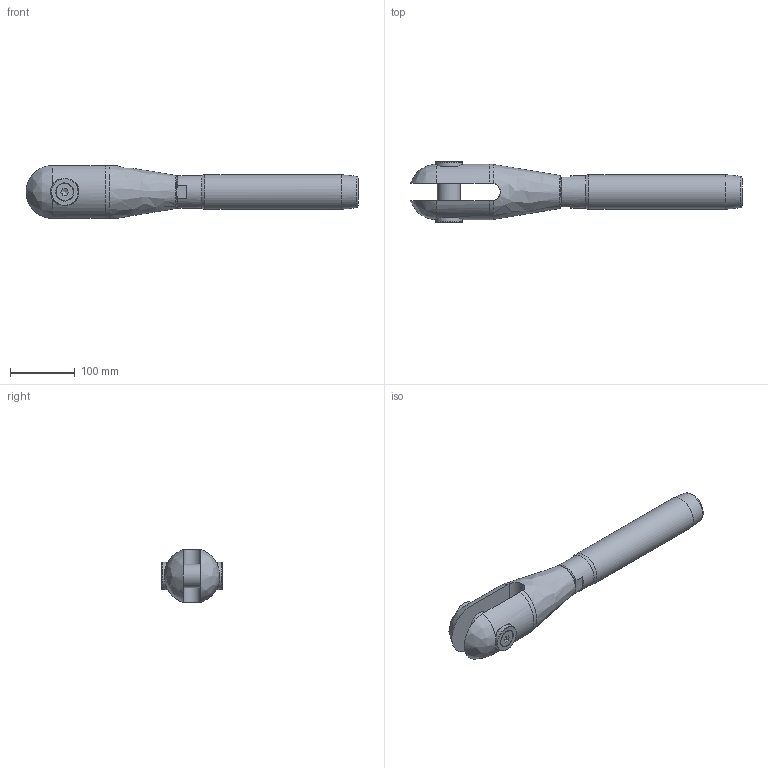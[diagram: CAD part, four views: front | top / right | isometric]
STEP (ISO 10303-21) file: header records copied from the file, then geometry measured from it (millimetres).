
FILE_DESCRIPTION(/* description */ (''),/* implementation_level */ '2;1');
FILE_NAME(/* name */ 'MAC-R 26_1,4418',/* time_stamp */ '2023-05-23T17:52:13+02:00',/* author */ (''),/* organization */ (''),/* preprocessor_version */ 'ST-DEVELOPER v16.5',/* originating_system */ 'Rhino 7.22',/* authorisation */ '');
FILE_SCHEMA (('CONFIG_CONTROL_DESIGN'));
Length unit declared in the file: millimetre
Products named in the file (1): Document
Bounding box: 512.28 x 93.15 x 81.65 mm (x, y, z)
Volume: 1413673.1 mm3; surface area: 169676.3 mm2
Topology: 7 solids, 7 shells, 88 faces, 246 edges, 171 vertices
Faces by surface type: plane 36, bspline 28, cylinder 24
Full cylindrical faces by diameter (mm): 11.835 x2, 14 x2, 14.5 x2, 26.52 x2, 36 x1, 38 x2, 38.752 x1, 42 x3, 50.8 x1, 53.4 x1
Entity records: 3526 total; most frequent: CARTESIAN_POINT 1963, ORIENTED_EDGE 482, EDGE_CURVE 241, VERTEX_POINT 171, EDGE_LOOP 100, B_SPLINE_CURVE_WITH_KNOTS 97, ADVANCED_FACE 88, FACE_OUTER_BOUND 88
